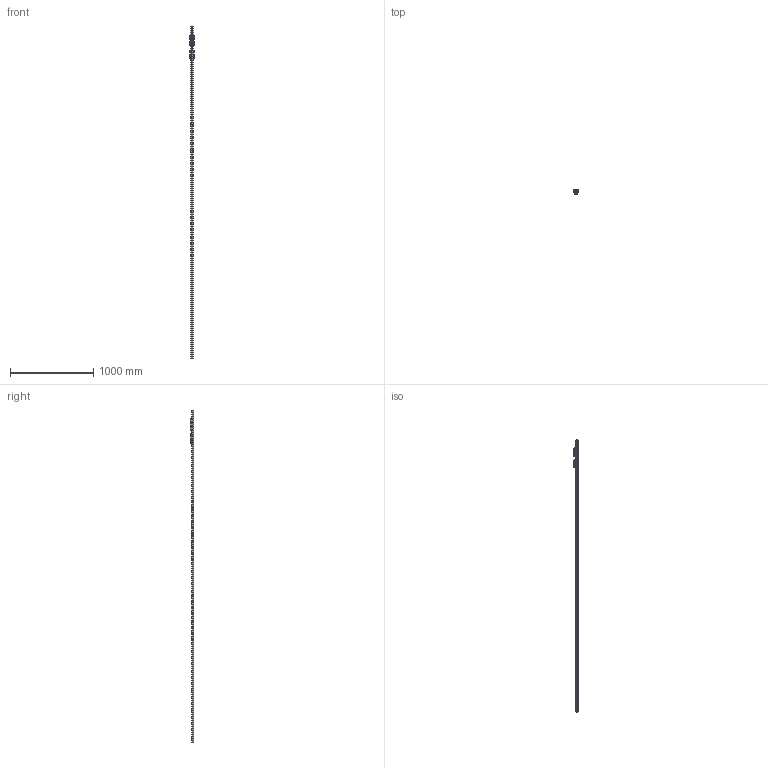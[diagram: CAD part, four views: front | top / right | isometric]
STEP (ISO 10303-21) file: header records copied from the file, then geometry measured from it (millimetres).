
FILE_DESCRIPTION((''),'2;1');
FILE_NAME('BRS30-U0_CUSTOMER_ASM_1_ASM_1_ASM','2020-11-25T09:43:55',('TWVS2025'),(''),'CREO PARAMETRIC BY PTC INC, 2018420','CREO PARAMETRIC BY PTC INC, 2018420','');
FILE_SCHEMA(('CONFIG_CONTROL_DESIGN'));
Products named in the file (5): BC-BRC30-U0_ASM_1_1_1; BC-BRC30-U0_ASM_1_ASM_1_ASM; BRR30_CUSTOMER_1_1_1_2_3_4_5; BC-BRD30-U0_ASM__1_ASM; BRS30-U0_CUSTOMER_ASM_1_ASM_1_ASM
Assembly tree (4 placements, depth 3):
  BRS30-U0_CUSTOMER_ASM_1_ASM_1_ASM
    BC-BRC30-U0_ASM_1_ASM_1_ASM
      BC-BRC30-U0_ASM_1_1_1
    BRR30_CUSTOMER_1_1_1_2_3_4_5
    BC-BRD30-U0_ASM__1_ASM
Bounding box: 59.95 x 42 x 4000 mm (x, y, z)
Volume: 2585607.5 mm3; surface area: 611716.2 mm2
Topology: 2 solids, 42 shells, 3756 faces, 10920 edges, 7156 vertices
Faces by surface type: plane 2108, cylinder 1056, bspline 236, cone 170, torus 152, sphere 18, extrusion 16
Entity records: 170993 total; most frequent: CARTESIAN_POINT 74379, ORIENTED_EDGE 21588, DIRECTION 18191, EDGE_CURVE 10864, VERTEX_POINT 7156, VECTOR 6165, LINE 6149, AXIS2_PLACEMENT_3D 6013
